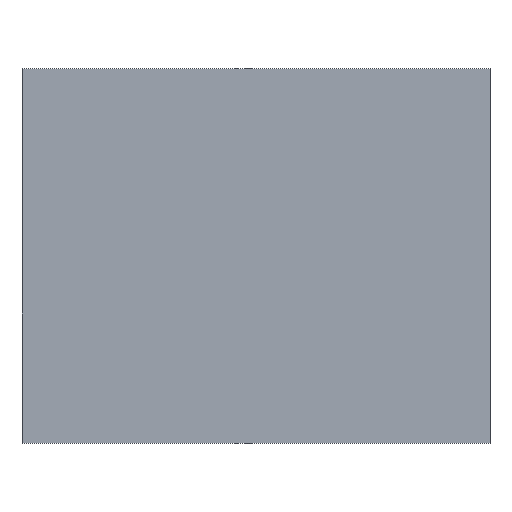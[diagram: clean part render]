
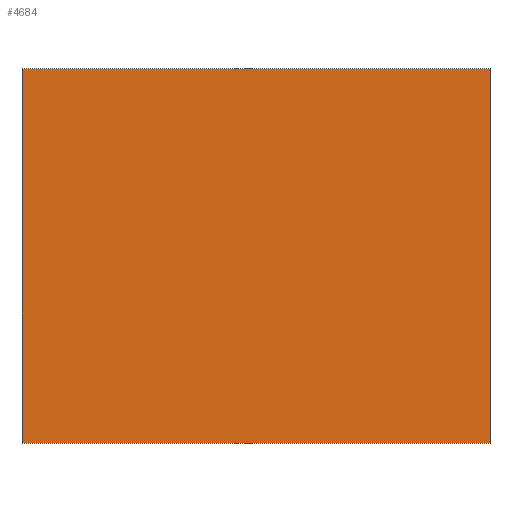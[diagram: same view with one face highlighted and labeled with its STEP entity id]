
A CAD part, top view. The second image highlights one B-rep face of the part: STEP entity #4684.
In plain terms, the highlighted planar face has unit normal (0, 0, 1).
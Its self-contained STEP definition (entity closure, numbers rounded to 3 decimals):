
#83 = CARTESIAN_POINT ( 'NONE',  ( 115.5, -92.373, 25.279 ) ) ;
#256 = CARTESIAN_POINT ( 'NONE',  ( -115.5, -92.373, 25.279 ) ) ;
#365 = DIRECTION ( 'NONE',  ( 1., 0., 0. ) ) ;
#530 = VECTOR ( 'NONE', #365, 1000. ) ;
#814 = DIRECTION ( 'NONE',  ( 0., 0., 1. ) ) ;
#948 = CARTESIAN_POINT ( 'NONE',  ( 115.5, -92.373, 25.279 ) ) ;
#1133 = ORIENTED_EDGE ( 'NONE', *, *, #3776, .F. ) ;
#1179 = FACE_OUTER_BOUND ( 'NONE', #3214, .T. ) ;
#1249 = EDGE_CURVE ( 'NONE', #1416, #3832, #2539, .T. ) ;
#1350 = LINE ( 'NONE', #948, #2240 ) ;
#1371 = DIRECTION ( 'NONE',  ( 0., 1., 0. ) ) ;
#1416 = VERTEX_POINT ( 'NONE', #4668 ) ;
#1589 = DIRECTION ( 'NONE',  ( 0., -1., 0. ) ) ;
#1606 = EDGE_CURVE ( 'NONE', #3832, #3939, #3701, .T. ) ;
#1616 = ORIENTED_EDGE ( 'NONE', *, *, #1972, .F. ) ;
#1687 = VECTOR ( 'NONE', #1589, 1000. ) ;
#1860 = VECTOR ( 'NONE', #1371, 1000. ) ;
#1972 = EDGE_CURVE ( 'NONE', #3939, #3395, #1350, .T. ) ;
#2153 = CARTESIAN_POINT ( 'NONE',  ( 115.5, 92.371, 25.279 ) ) ;
#2235 = CARTESIAN_POINT ( 'NONE',  ( 115.5, 92.371, 25.279 ) ) ;
#2240 = VECTOR ( 'NONE', #3209, 1000. ) ;
#2307 = PLANE ( 'NONE',  #3323 ) ;
#2471 = CARTESIAN_POINT ( 'NONE',  ( -115.5, -92.373, 25.279 ) ) ;
#2539 = LINE ( 'NONE', #2235, #530 ) ;
#2711 = ORIENTED_EDGE ( 'NONE', *, *, #1606, .F. ) ;
#3075 = CARTESIAN_POINT ( 'NONE',  ( 0., 0., 25.279 ) ) ;
#3209 = DIRECTION ( 'NONE',  ( -1., 0., 0. ) ) ;
#3214 = EDGE_LOOP ( 'NONE', ( #2711, #3835, #1133, #1616 ) ) ;
#3323 = AXIS2_PLACEMENT_3D ( 'NONE', #3075, #814, #3445 ) ;
#3395 = VERTEX_POINT ( 'NONE', #2471 ) ;
#3445 = DIRECTION ( 'NONE',  ( 1., 0., 0. ) ) ;
#3496 = CARTESIAN_POINT ( 'NONE',  ( 115.5, -92.373, 25.279 ) ) ;
#3701 = LINE ( 'NONE', #3496, #1687 ) ;
#3776 = EDGE_CURVE ( 'NONE', #3395, #1416, #3856, .T. ) ;
#3832 = VERTEX_POINT ( 'NONE', #2153 ) ;
#3835 = ORIENTED_EDGE ( 'NONE', *, *, #1249, .F. ) ;
#3856 = LINE ( 'NONE', #256, #1860 ) ;
#3939 = VERTEX_POINT ( 'NONE', #83 ) ;
#4668 = CARTESIAN_POINT ( 'NONE',  ( -115.5, 92.371, 25.279 ) ) ;
#4684 = ADVANCED_FACE ( 'NONE', ( #1179 ), #2307, .T. ) ;
